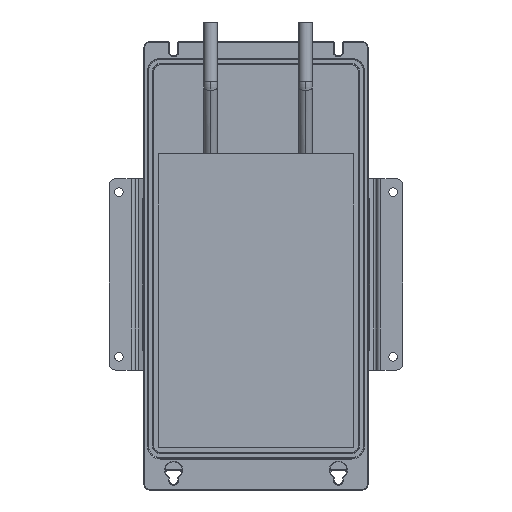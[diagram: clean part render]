
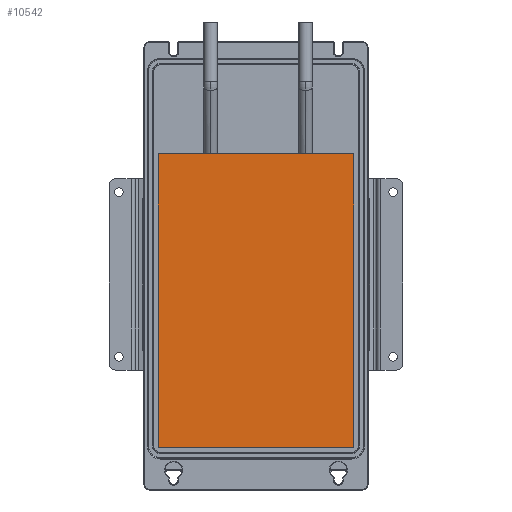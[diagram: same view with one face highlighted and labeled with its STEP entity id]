
A CAD part, front view. The second image highlights one B-rep face of the part: STEP entity #10542.
In plain terms, the highlighted planar face has unit normal (0, -1, 0).
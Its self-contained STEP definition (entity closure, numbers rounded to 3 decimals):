
#2287 = VERTEX_POINT ( 'NONE', #37474 ) ;
#2476 = FACE_OUTER_BOUND ( 'NONE', #31238, .T. ) ;
#8727 = DIRECTION ( 'NONE',  ( 0., 1., 0. ) ) ;
#10194 = LINE ( 'NONE', #59107, #47394 ) ;
#10542 = ADVANCED_FACE ( 'NONE', ( #2476 ), #66700, .F. ) ;
#10809 = ORIENTED_EDGE ( 'NONE', *, *, #29863, .T. ) ;
#13790 = CARTESIAN_POINT ( 'NONE',  ( -74., -19.5, -5. ) ) ;
#19351 = DIRECTION ( 'NONE',  ( 0., 0., -1. ) ) ;
#20445 = AXIS2_PLACEMENT_3D ( 'NONE', #44846, #8727, #66022 ) ;
#21710 = VERTEX_POINT ( 'NONE', #63642 ) ;
#24969 = EDGE_CURVE ( 'NONE', #62149, #21710, #61000, .T. ) ;
#26185 = ORIENTED_EDGE ( 'NONE', *, *, #24969, .T. ) ;
#27835 = VECTOR ( 'NONE', #19351, 1000. ) ;
#29167 = VECTOR ( 'NONE', #54264, 1000. ) ;
#29863 = EDGE_CURVE ( 'NONE', #21710, #56151, #53922, .T. ) ;
#31238 = EDGE_LOOP ( 'NONE', ( #37906, #38870, #26185, #10809 ) ) ;
#31356 = DIRECTION ( 'NONE',  ( -1., 0., 0. ) ) ;
#34750 = CARTESIAN_POINT ( 'NONE',  ( 74., -19.5, -5. ) ) ;
#37474 = CARTESIAN_POINT ( 'NONE',  ( 74., -19.5, -5. ) ) ;
#37906 = ORIENTED_EDGE ( 'NONE', *, *, #57908, .T. ) ;
#38870 = ORIENTED_EDGE ( 'NONE', *, *, #54538, .T. ) ;
#44846 = CARTESIAN_POINT ( 'NONE',  ( 0., -19.5, -5. ) ) ;
#45692 = CARTESIAN_POINT ( 'NONE',  ( 74., -19.5, -228. ) ) ;
#47394 = VECTOR ( 'NONE', #31356, 1000. ) ;
#48727 = CARTESIAN_POINT ( 'NONE',  ( 74., -19.5, -228. ) ) ;
#53922 = LINE ( 'NONE', #48727, #29167 ) ;
#54264 = DIRECTION ( 'NONE',  ( 1., 0., 0. ) ) ;
#54538 = EDGE_CURVE ( 'NONE', #2287, #62149, #10194, .T. ) ;
#56151 = VERTEX_POINT ( 'NONE', #45692 ) ;
#57908 = EDGE_CURVE ( 'NONE', #56151, #2287, #66381, .T. ) ;
#59107 = CARTESIAN_POINT ( 'NONE',  ( 74., -19.5, -5. ) ) ;
#60296 = CARTESIAN_POINT ( 'NONE',  ( -74., -19.5, -5. ) ) ;
#60834 = VECTOR ( 'NONE', #66710, 1000. ) ;
#61000 = LINE ( 'NONE', #13790, #27835 ) ;
#62149 = VERTEX_POINT ( 'NONE', #60296 ) ;
#63642 = CARTESIAN_POINT ( 'NONE',  ( -74., -19.5, -228. ) ) ;
#66022 = DIRECTION ( 'NONE',  ( -1., 0., 0. ) ) ;
#66381 = LINE ( 'NONE', #34750, #60834 ) ;
#66700 = PLANE ( 'NONE',  #20445 ) ;
#66710 = DIRECTION ( 'NONE',  ( 0., 0., 1. ) ) ;
